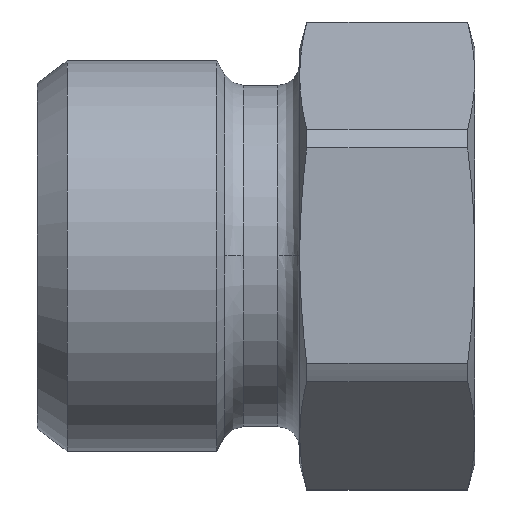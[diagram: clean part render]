
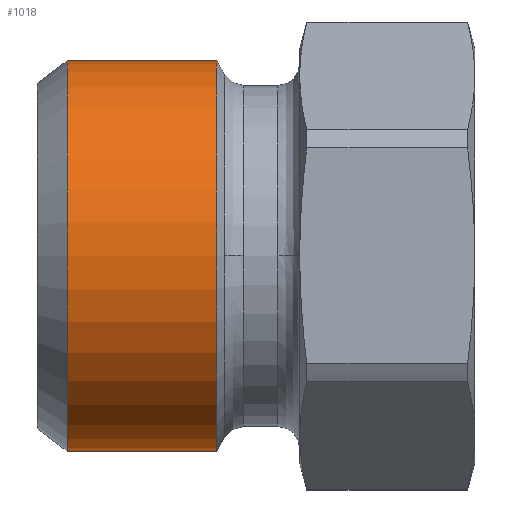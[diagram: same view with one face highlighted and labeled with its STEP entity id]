
A CAD part, top view. The second image highlights one B-rep face of the part: STEP entity #1018.
In plain terms, the highlighted cylindrical face has radius 8.925 mm (diameter 17.85 mm), a partial arc.
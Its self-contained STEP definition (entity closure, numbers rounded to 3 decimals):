
#368=CARTESIAN_POINT('',(0.,-8.925,14.64));
#369=VERTEX_POINT('',#368);
#370=CARTESIAN_POINT('',(0.,-8.925,7.8));
#371=VERTEX_POINT('',#370);
#372=CARTESIAN_POINT('',(0.,-8.925,14.64));
#373=DIRECTION('',(0.0,0.0,-1.0));
#374=VECTOR('',#373,6.84);
#375=LINE('',#372,#374);
#376=EDGE_CURVE('',#369,#371,#375,.T.);
#378=CARTESIAN_POINT('',(0.,8.925,14.64));
#379=VERTEX_POINT('',#378);
#387=CARTESIAN_POINT('',(0.,8.925,7.8));
#388=VERTEX_POINT('',#387);
#389=CARTESIAN_POINT('',(0.,8.925,7.8));
#390=DIRECTION('',(0.0,0.0,1.0));
#391=VECTOR('',#390,6.84);
#392=LINE('',#389,#391);
#393=EDGE_CURVE('',#388,#379,#392,.T.);
#894=CARTESIAN_POINT('',(0.,0.,7.8));
#895=DIRECTION('',(0.0,0.0,-1.0));
#896=DIRECTION('',(0.0,-1.0,0.0));
#897=AXIS2_PLACEMENT_3D('',#894,#895,#896);
#898=CIRCLE('',#897,8.925);
#899=EDGE_CURVE('',#388,#371,#898,.T.);
#995=CARTESIAN_POINT('',(0.,0.,14.64));
#996=DIRECTION('',(0.0,0.0,-1.0));
#997=DIRECTION('',(0.0,-1.0,0.0));
#998=AXIS2_PLACEMENT_3D('',#995,#996,#997);
#999=CIRCLE('',#998,8.925);
#1000=EDGE_CURVE('',#379,#369,#999,.T.);
#1007=CARTESIAN_POINT('',(0.,0.,11.22));
#1008=DIRECTION('',(0.,0.,-1.0));
#1009=DIRECTION('',(0.0,-1.0,0.0));
#1010=AXIS2_PLACEMENT_3D('',#1007,#1008,#1009);
#1011=CYLINDRICAL_SURFACE('',#1010,8.925);
#1012=ORIENTED_EDGE('',*,*,#376,.T.);
#1013=ORIENTED_EDGE('',*,*,#899,.F.);
#1014=ORIENTED_EDGE('',*,*,#393,.T.);
#1015=ORIENTED_EDGE('',*,*,#1000,.T.);
#1016=EDGE_LOOP('',(#1012,#1013,#1014,#1015));
#1017=FACE_OUTER_BOUND('',#1016,.T.);
#1018=ADVANCED_FACE('',(#1017),#1011,.T.);
